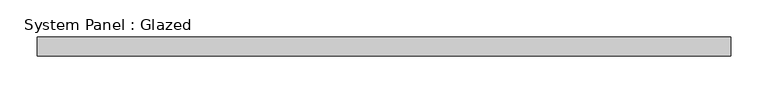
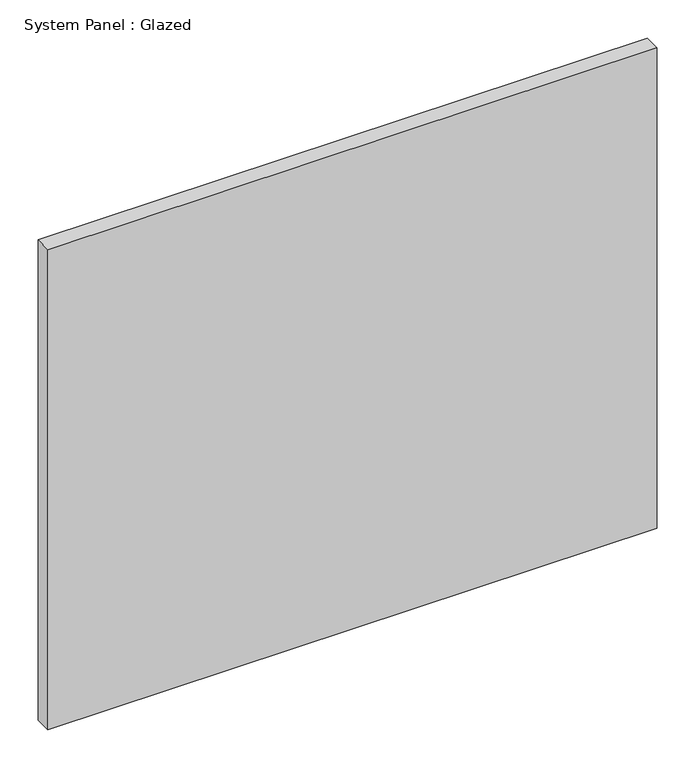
"""IFC4 building model written with IfcOpenShell, lengths in millimetres: plate geometry, System Panel : Glazed."""

from ifc_helpers import new_model, si_unit, origin, origin_with_axes, place, context, project, spatial, polyline, outline, extrude, source, transform, mapped, element, save


def system_panel_glazed_f81f1869(model_context):
    return source(origin(), model_context, "Body", "SweptSolid", [
        extrude(outline(polyline([(462.5088063, -44.45), (-462.5088063, -44.45), (-462.5088063, -19.05), (462.5088063, -19.05), (462.5088063, -44.45)])), origin_with_axes(), (0.0, 0.0, 1.0), 770.6690025),
    ])


if __name__ == "__main__":
    model = new_model("IFC4")
    model_context = context("Model", 3, world=origin())
    ifc_project = project(units=[si_unit("LENGTHUNIT", "METRE", prefix="MILLI")], contexts=[model_context])
    site = spatial("IfcSite", under=ifc_project)
    building = spatial("IfcBuilding", under=site)
    placement = place(None, origin())
    system_panel_glazed_shape = system_panel_glazed_f81f1869(model_context)
    element("IfcPlate", 1, ObjectType="System Panel : Glazed", at=placement, inside=building, context=model_context, shape_type="MappedRepresentation", body=[
        mapped(system_panel_glazed_shape, transform((0.0, 0.0, 0.0), x_axis=(1.0, 0.0, 0.0), y_axis=(0.0, 1.0, 0.0), z_axis=(0.0, 0.0, 1.0))),
    ])
    save(model, "model.ifc")
